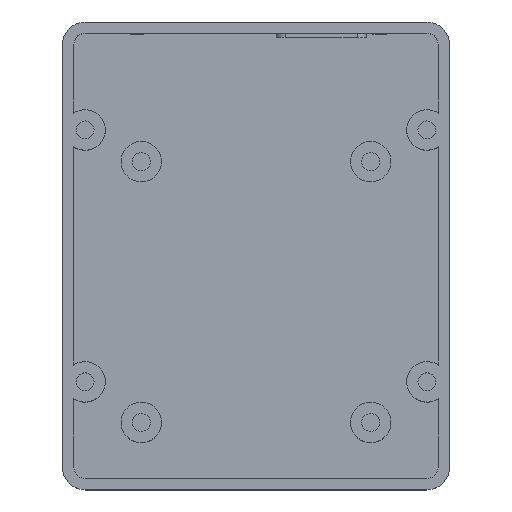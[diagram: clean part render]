
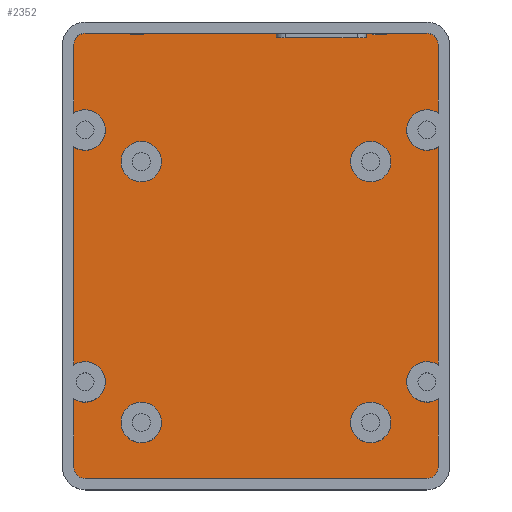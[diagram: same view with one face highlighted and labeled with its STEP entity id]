
A CAD part, top view. The second image highlights one B-rep face of the part: STEP entity #2352.
In plain terms, the highlighted planar face has unit normal (0, 0, 1).
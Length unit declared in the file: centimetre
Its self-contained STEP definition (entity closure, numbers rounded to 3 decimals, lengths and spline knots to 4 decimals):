
#70=FACE_BOUND('',#419,.T.);
#71=FACE_BOUND('',#420,.T.);
#72=FACE_BOUND('',#421,.T.);
#73=FACE_BOUND('',#422,.T.);
#165=CIRCLE('',#2566,0.45);
#166=CIRCLE('',#2568,0.25);
#167=CIRCLE('',#2569,0.45);
#168=CIRCLE('',#2570,0.45);
#169=CIRCLE('',#2571,0.25);
#170=CIRCLE('',#2572,0.25);
#171=CIRCLE('',#2573,0.45);
#172=CIRCLE('',#2574,0.25);
#173=CIRCLE('',#2575,0.45);
#174=CIRCLE('',#2576,0.45);
#175=CIRCLE('',#2577,0.45);
#176=CIRCLE('',#2578,0.45);
#289=FACE_OUTER_BOUND('',#418,.T.);
#418=EDGE_LOOP('',(#1973,#1974,#1975,#1976,#1977,#1978,#1979,#1980,#1981,
#1982,#1983,#1984,#1985,#1986,#1987,#1988,#1989,#1990,#1991,#1992,#1993,
#1994,#1995,#1996));
#419=EDGE_LOOP('',(#1997));
#420=EDGE_LOOP('',(#1998));
#421=EDGE_LOOP('',(#1999));
#422=EDGE_LOOP('',(#2000));
#476=LINE('',#3336,#709);
#486=LINE('',#3356,#719);
#488=LINE('',#3359,#721);
#499=LINE('',#3382,#732);
#503=LINE('',#3390,#736);
#520=LINE('',#3439,#753);
#528=LINE('',#3455,#761);
#530=LINE('',#3458,#763);
#660=LINE('',#3873,#893);
#661=LINE('',#3877,#894);
#662=LINE('',#3881,#895);
#663=LINE('',#3885,#896);
#664=LINE('',#3889,#897);
#665=LINE('',#3893,#898);
#666=LINE('',#3896,#899);
#667=LINE('',#3898,#900);
#709=VECTOR('',#2637,1.);
#719=VECTOR('',#2651,1.);
#721=VECTOR('',#2655,1.);
#732=VECTOR('',#2672,1.);
#736=VECTOR('',#2676,1.);
#753=VECTOR('',#2711,1.);
#761=VECTOR('',#2723,1.);
#763=VECTOR('',#2727,1.);
#893=VECTOR('',#3155,1.);
#894=VECTOR('',#3158,1.);
#895=VECTOR('',#3161,1.);
#896=VECTOR('',#3164,1.);
#897=VECTOR('',#3167,1.);
#898=VECTOR('',#3170,1.);
#899=VECTOR('',#3173,1.);
#900=VECTOR('',#3174,1.);
#942=VERTEX_POINT('',#3333);
#943=VERTEX_POINT('',#3335);
#950=VERTEX_POINT('',#3353);
#951=VERTEX_POINT('',#3355);
#960=VERTEX_POINT('',#3381);
#963=VERTEX_POINT('',#3387);
#964=VERTEX_POINT('',#3389);
#987=VERTEX_POINT('',#3438);
#992=VERTEX_POINT('',#3452);
#993=VERTEX_POINT('',#3454);
#1115=VERTEX_POINT('',#3865);
#1117=VERTEX_POINT('',#3869);
#1118=VERTEX_POINT('',#3874);
#1119=VERTEX_POINT('',#3876);
#1120=VERTEX_POINT('',#3878);
#1121=VERTEX_POINT('',#3880);
#1122=VERTEX_POINT('',#3882);
#1123=VERTEX_POINT('',#3884);
#1124=VERTEX_POINT('',#3886);
#1125=VERTEX_POINT('',#3888);
#1126=VERTEX_POINT('',#3890);
#1127=VERTEX_POINT('',#3892);
#1128=VERTEX_POINT('',#3894);
#1129=VERTEX_POINT('',#3897);
#1130=VERTEX_POINT('',#3900);
#1131=VERTEX_POINT('',#3902);
#1132=VERTEX_POINT('',#3904);
#1133=VERTEX_POINT('',#3906);
#1168=EDGE_CURVE('',#943,#942,#476,.T.);
#1178=EDGE_CURVE('',#951,#950,#486,.T.);
#1180=EDGE_CURVE('',#950,#943,#488,.T.);
#1191=EDGE_CURVE('',#960,#951,#499,.T.);
#1195=EDGE_CURVE('',#964,#963,#503,.T.);
#1220=EDGE_CURVE('',#987,#964,#520,.T.);
#1228=EDGE_CURVE('',#993,#992,#528,.T.);
#1230=EDGE_CURVE('',#992,#987,#530,.T.);
#1427=EDGE_CURVE('',#1115,#1117,#165,.T.);
#1428=EDGE_CURVE('',#942,#993,#660,.T.);
#1429=EDGE_CURVE('',#963,#1118,#166,.T.);
#1430=EDGE_CURVE('',#1118,#1119,#661,.T.);
#1431=EDGE_CURVE('',#1119,#1120,#167,.T.);
#1432=EDGE_CURVE('',#1120,#1121,#662,.T.);
#1433=EDGE_CURVE('',#1121,#1122,#168,.T.);
#1434=EDGE_CURVE('',#1122,#1123,#663,.T.);
#1435=EDGE_CURVE('',#1123,#1124,#169,.T.);
#1436=EDGE_CURVE('',#1124,#1125,#664,.T.);
#1437=EDGE_CURVE('',#1125,#1126,#170,.T.);
#1438=EDGE_CURVE('',#1126,#1127,#665,.T.);
#1439=EDGE_CURVE('',#1127,#1128,#171,.T.);
#1440=EDGE_CURVE('',#1128,#1115,#666,.T.);
#1441=EDGE_CURVE('',#1117,#1129,#667,.T.);
#1442=EDGE_CURVE('',#1129,#960,#172,.T.);
#1443=EDGE_CURVE('',#1130,#1130,#173,.T.);
#1444=EDGE_CURVE('',#1131,#1131,#174,.T.);
#1445=EDGE_CURVE('',#1132,#1132,#175,.T.);
#1446=EDGE_CURVE('',#1133,#1133,#176,.T.);
#1973=ORIENTED_EDGE('',*,*,#1168,.T.);
#1974=ORIENTED_EDGE('',*,*,#1428,.T.);
#1975=ORIENTED_EDGE('',*,*,#1228,.T.);
#1976=ORIENTED_EDGE('',*,*,#1230,.T.);
#1977=ORIENTED_EDGE('',*,*,#1220,.T.);
#1978=ORIENTED_EDGE('',*,*,#1195,.T.);
#1979=ORIENTED_EDGE('',*,*,#1429,.T.);
#1980=ORIENTED_EDGE('',*,*,#1430,.T.);
#1981=ORIENTED_EDGE('',*,*,#1431,.T.);
#1982=ORIENTED_EDGE('',*,*,#1432,.T.);
#1983=ORIENTED_EDGE('',*,*,#1433,.T.);
#1984=ORIENTED_EDGE('',*,*,#1434,.T.);
#1985=ORIENTED_EDGE('',*,*,#1435,.T.);
#1986=ORIENTED_EDGE('',*,*,#1436,.T.);
#1987=ORIENTED_EDGE('',*,*,#1437,.T.);
#1988=ORIENTED_EDGE('',*,*,#1438,.T.);
#1989=ORIENTED_EDGE('',*,*,#1439,.T.);
#1990=ORIENTED_EDGE('',*,*,#1440,.T.);
#1991=ORIENTED_EDGE('',*,*,#1427,.T.);
#1992=ORIENTED_EDGE('',*,*,#1441,.T.);
#1993=ORIENTED_EDGE('',*,*,#1442,.T.);
#1994=ORIENTED_EDGE('',*,*,#1191,.T.);
#1995=ORIENTED_EDGE('',*,*,#1178,.T.);
#1996=ORIENTED_EDGE('',*,*,#1180,.T.);
#1997=ORIENTED_EDGE('',*,*,#1443,.T.);
#1998=ORIENTED_EDGE('',*,*,#1444,.T.);
#1999=ORIENTED_EDGE('',*,*,#1445,.T.);
#2000=ORIENTED_EDGE('',*,*,#1446,.T.);
#2240=PLANE('',#2567);
#2352=ADVANCED_FACE('',(#289,#70,#71,#72,#73),#2240,.T.);
#2566=AXIS2_PLACEMENT_3D('',#3871,#3151,#3152);
#2567=AXIS2_PLACEMENT_3D('',#3872,#3153,#3154);
#2568=AXIS2_PLACEMENT_3D('',#3875,#3156,#3157);
#2569=AXIS2_PLACEMENT_3D('',#3879,#3159,#3160);
#2570=AXIS2_PLACEMENT_3D('',#3883,#3162,#3163);
#2571=AXIS2_PLACEMENT_3D('',#3887,#3165,#3166);
#2572=AXIS2_PLACEMENT_3D('',#3891,#3168,#3169);
#2573=AXIS2_PLACEMENT_3D('',#3895,#3171,#3172);
#2574=AXIS2_PLACEMENT_3D('',#3899,#3175,#3176);
#2575=AXIS2_PLACEMENT_3D('',#3901,#3177,#3178);
#2576=AXIS2_PLACEMENT_3D('',#3903,#3179,#3180);
#2577=AXIS2_PLACEMENT_3D('',#3905,#3181,#3182);
#2578=AXIS2_PLACEMENT_3D('',#3907,#3183,#3184);
#2637=DIRECTION('',(0.,1.,0.));
#2651=DIRECTION('',(0.,-1.,0.));
#2655=DIRECTION('',(-1.,0.,0.));
#2672=DIRECTION('',(-1.,0.,0.));
#2676=DIRECTION('',(-1.,0.,0.));
#2711=DIRECTION('',(0.,1.,0.));
#2723=DIRECTION('',(0.,-1.,0.));
#2727=DIRECTION('',(-1.,0.,0.));
#3151=DIRECTION('center_axis',(0.,0.,-1.));
#3152=DIRECTION('ref_axis',(1.,0.,0.));
#3153=DIRECTION('center_axis',(0.,0.,1.));
#3154=DIRECTION('ref_axis',(1.,0.,0.));
#3155=DIRECTION('',(-1.,0.,0.));
#3156=DIRECTION('center_axis',(0.,0.,1.));
#3157=DIRECTION('ref_axis',(0.,1.,0.));
#3158=DIRECTION('',(0.,-1.,0.));
#3159=DIRECTION('center_axis',(0.,0.,-1.));
#3160=DIRECTION('ref_axis',(1.,0.,0.));
#3161=DIRECTION('',(0.,-1.,0.));
#3162=DIRECTION('center_axis',(0.,0.,-1.));
#3163=DIRECTION('ref_axis',(1.,0.,0.));
#3164=DIRECTION('',(0.,-1.,0.));
#3165=DIRECTION('center_axis',(0.,0.,1.));
#3166=DIRECTION('ref_axis',(-1.,0.,0.));
#3167=DIRECTION('',(1.,0.,0.));
#3168=DIRECTION('center_axis',(0.,0.,1.));
#3169=DIRECTION('ref_axis',(0.,-1.,0.));
#3170=DIRECTION('',(0.,1.,0.));
#3171=DIRECTION('center_axis',(0.,0.,-1.));
#3172=DIRECTION('ref_axis',(1.,0.,0.));
#3173=DIRECTION('',(0.,1.,0.));
#3174=DIRECTION('',(0.,1.,0.));
#3175=DIRECTION('center_axis',(0.,0.,1.));
#3176=DIRECTION('ref_axis',(1.,0.,0.));
#3177=DIRECTION('center_axis',(0.,0.,-1.));
#3178=DIRECTION('ref_axis',(1.,0.,0.));
#3179=DIRECTION('center_axis',(0.,0.,-1.));
#3180=DIRECTION('ref_axis',(1.,0.,0.));
#3181=DIRECTION('center_axis',(0.,0.,-1.));
#3182=DIRECTION('ref_axis',(1.,0.,0.));
#3183=DIRECTION('center_axis',(0.,0.,-1.));
#3184=DIRECTION('ref_axis',(1.,0.,0.));
#3333=CARTESIAN_POINT('',(2.6,4.95,0.25));
#3335=CARTESIAN_POINT('',(2.6,4.92,0.25));
#3336=CARTESIAN_POINT('',(2.6,2.525,0.25));
#3353=CARTESIAN_POINT('',(2.9,4.92,0.25));
#3355=CARTESIAN_POINT('',(2.9,4.95,0.25));
#3356=CARTESIAN_POINT('',(2.9,2.46,0.25));
#3359=CARTESIAN_POINT('',(1.3,4.92,0.25));
#3381=CARTESIAN_POINT('',(3.8,4.95,0.25));
#3382=CARTESIAN_POINT('',(3.8,4.95,0.25));
#3387=CARTESIAN_POINT('',(-3.8,4.95,0.25));
#3389=CARTESIAN_POINT('',(-2.8,4.95,0.25));
#3390=CARTESIAN_POINT('',(3.8,4.95,0.25));
#3438=CARTESIAN_POINT('',(-2.8,4.92,0.25));
#3439=CARTESIAN_POINT('',(-2.8,2.525,0.25));
#3452=CARTESIAN_POINT('',(-2.5,4.92,0.25));
#3454=CARTESIAN_POINT('',(-2.5,4.95,0.25));
#3455=CARTESIAN_POINT('',(-2.5,2.46,0.25));
#3458=CARTESIAN_POINT('',(-1.4,4.92,0.25));
#3865=CARTESIAN_POINT('',(4.05,2.4258,0.25));
#3869=CARTESIAN_POINT('',(4.05,3.1742,0.25));
#3871=CARTESIAN_POINT('Origin',(3.8,2.8,0.25));
#3872=CARTESIAN_POINT('Origin',(0.,0.,0.25));
#3873=CARTESIAN_POINT('',(3.8,4.95,0.25));
#3874=CARTESIAN_POINT('',(-4.05,4.7,0.25));
#3875=CARTESIAN_POINT('Origin',(-3.8,4.7,0.25));
#3876=CARTESIAN_POINT('',(-4.05,3.1742,0.25));
#3877=CARTESIAN_POINT('',(-4.05,4.7,0.25));
#3878=CARTESIAN_POINT('',(-4.05,2.4258,0.25));
#3879=CARTESIAN_POINT('Origin',(-3.8,2.8,0.25));
#3880=CARTESIAN_POINT('',(-4.05,-2.4258,0.25));
#3881=CARTESIAN_POINT('',(-4.05,4.7,0.25));
#3882=CARTESIAN_POINT('',(-4.05,-3.1742,0.25));
#3883=CARTESIAN_POINT('Origin',(-3.8,-2.8,0.25));
#3884=CARTESIAN_POINT('',(-4.05,-4.7,0.25));
#3885=CARTESIAN_POINT('',(-4.05,4.7,0.25));
#3886=CARTESIAN_POINT('',(-3.8,-4.95,0.25));
#3887=CARTESIAN_POINT('Origin',(-3.8,-4.7,0.25));
#3888=CARTESIAN_POINT('',(3.8,-4.95,0.25));
#3889=CARTESIAN_POINT('',(-3.8,-4.95,0.25));
#3890=CARTESIAN_POINT('',(4.05,-4.7,0.25));
#3891=CARTESIAN_POINT('Origin',(3.8,-4.7,0.25));
#3892=CARTESIAN_POINT('',(4.05,-3.1742,0.25));
#3893=CARTESIAN_POINT('',(4.05,-4.7,0.25));
#3894=CARTESIAN_POINT('',(4.05,-2.4258,0.25));
#3895=CARTESIAN_POINT('Origin',(3.8,-2.8,0.25));
#3896=CARTESIAN_POINT('',(4.05,-4.7,0.25));
#3897=CARTESIAN_POINT('',(4.05,4.7,0.25));
#3898=CARTESIAN_POINT('',(4.05,-4.7,0.25));
#3899=CARTESIAN_POINT('Origin',(3.8,4.7,0.25));
#3900=CARTESIAN_POINT('',(2.1,2.1,0.25));
#3901=CARTESIAN_POINT('Origin',(2.55,2.1,0.25));
#3902=CARTESIAN_POINT('',(-3.,-3.7,0.25));
#3903=CARTESIAN_POINT('Origin',(-2.55,-3.7,0.25));
#3904=CARTESIAN_POINT('',(-3.,2.1,0.25));
#3905=CARTESIAN_POINT('Origin',(-2.55,2.1,0.25));
#3906=CARTESIAN_POINT('',(2.1,-3.7,0.25));
#3907=CARTESIAN_POINT('Origin',(2.55,-3.7,0.25));
